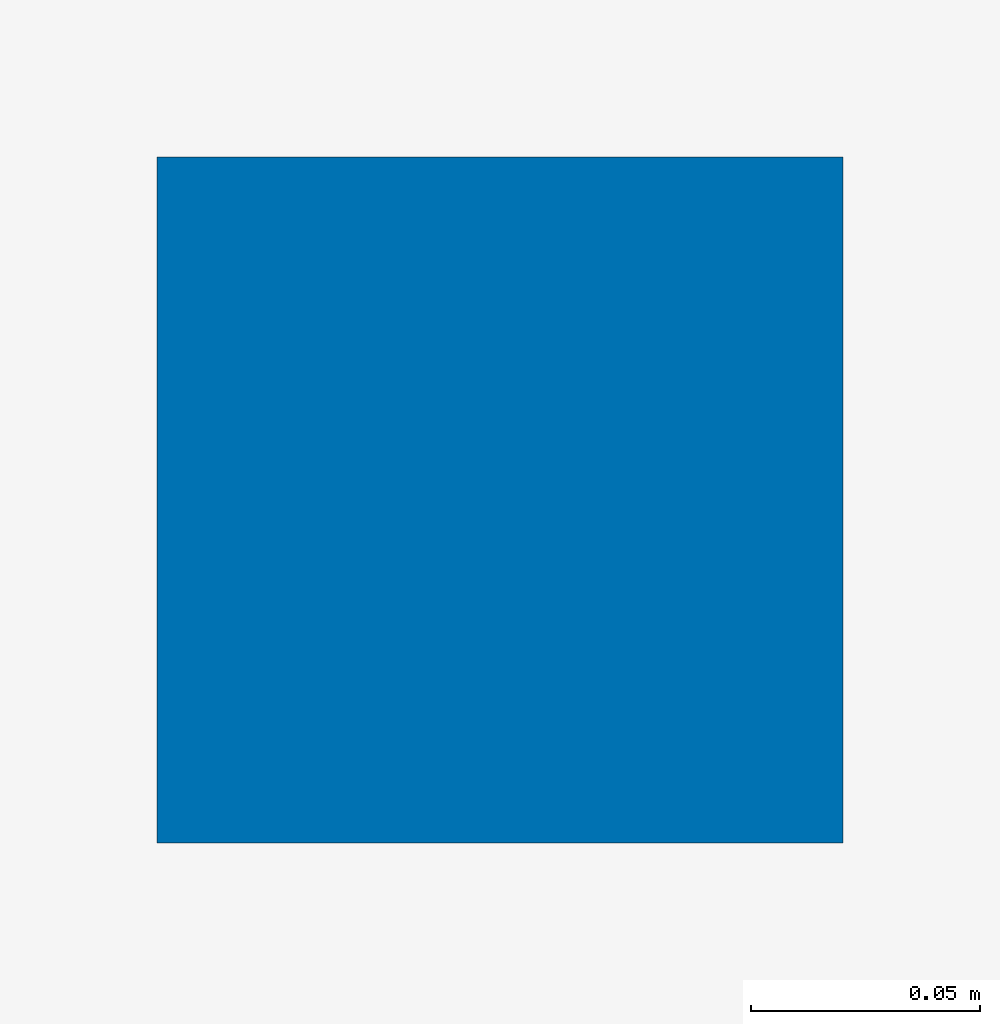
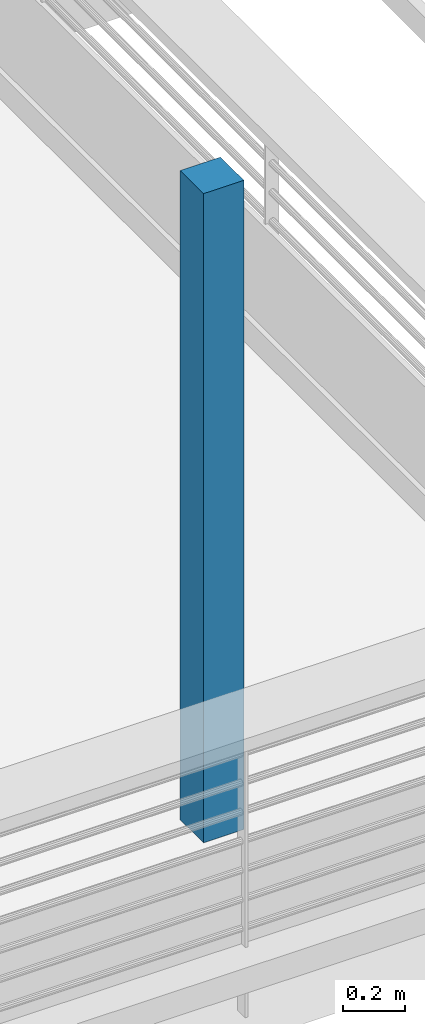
# One storey, part 10 of 171: 1 column.
"""IFC2X3 building model written with IfcOpenShell, lengths in millimetres."""

import ifcopenshell
import ifcopenshell.guid

model = None  # the IFC model being written
_history = None  # IfcOwnerHistory: only IFC2X3 demands one
_inside = {}  # id of a spatial element -> (the spatial element, [elements in it])
_under = {}  # id of a project, library or spatial element -> (it, [spatial elements below it])
_declared = {}  # id of a project -> (the project, [libraries it declares])
_typed = {}  # id of a type object -> (the type object, [elements of that type])
_made_of = {}  # id of a material, layer set ... -> (it, [elements and type objects made of it])


def new_model(schema):
    """Start an empty IFC model of exactly this schema.

    Asked for "IFC4X3", IfcOpenShell would pick the latest addendum, in which some entities
    have other attributes; the version numbers below select the first issue.
    IFC2X3 requires an IfcOwnerHistory on every rooted entity: one is made here for all.
    """
    global model, _history
    if schema == "IFC4X3":
        model = ifcopenshell.file(schema_version=(4, 3, 0, 0))
    else:
        model = ifcopenshell.file(schema=schema)
    _inside.clear()
    _under.clear()
    _declared.clear()
    _typed.clear()
    _made_of.clear()
    _history = None
    if model.schema == "IFC2X3":
        org = make("IfcOrganization", Name="unknown")
        user = make(
            "IfcPersonAndOrganization",
            ThePerson=make("IfcPerson", FamilyName="unknown"),
            TheOrganization=org,
        )
        app = make(
            "IfcApplication",
            ApplicationDeveloper=org,
            Version="unknown",
            ApplicationFullName="unknown",
            ApplicationIdentifier="unknown",
        )
        _history = make(
            "IfcOwnerHistory",
            OwningUser=user,
            OwningApplication=app,
            ChangeAction="ADDED",
            CreationDate=0,
        )
    return model


def make(cls, **values):
    """One entity of the class cls with the attributes given. An attribute that is None is left unset."""
    return model.create_entity(
        cls, **{name: value for name, value in values.items() if value is not None}
    )


def entity(cls, *values):
    """Any entity or typed value of the class cls, its attributes in the order of the schema. None: left unset."""
    e = model.create_entity(cls)
    for i, value in enumerate(values):
        if value is not None:
            e[i] = value
    return e


def rooted(cls, **values):
    """An entity with a GlobalId (a new one), such as an element, a storey or a relation."""
    return make(cls, GlobalId=ifcopenshell.guid.new(), OwnerHistory=_history, **values)


def si_unit(unit_type, name, prefix=None):
    """IfcSIUnit, for example si_unit("LENGTHUNIT", "METRE", prefix="MILLI")."""
    return make("IfcSIUnit", UnitType=unit_type, Prefix=prefix, Name=name)


def converted_unit(unit_type, name, factor, base, dimensions=None, offset=None):
    """IfcConversionBasedUnit, such as the inch: factor (a typed value) times the base unit."""
    return make(
        "IfcConversionBasedUnit"
        if offset is None
        else "IfcConversionBasedUnitWithOffset",
        ConversionOffset=offset,
        Dimensions=None
        if dimensions is None
        else entity("IfcDimensionalExponents", *dimensions),
        UnitType=unit_type,
        Name=name,
        ConversionFactor=make(
            "IfcMeasureWithUnit", ValueComponent=factor, UnitComponent=base
        ),
    )


def derived_unit(unit_type, elements):
    """IfcDerivedUnit: a product of units, each with its exponent."""
    return make(
        "IfcDerivedUnit",
        Elements=[
            make("IfcDerivedUnitElement", Unit=unit, Exponent=power)
            for unit, power in elements
        ],
        UnitType=unit_type,
    )


def money_unit(currency):
    """IfcMonetaryUnit."""
    return make("IfcMonetaryUnit", Currency=currency)


def assignment(units):
    """IfcUnitAssignment: the units of a project."""
    return None if units is None else make("IfcUnitAssignment", Units=units)


def point(xyz):
    """IfcCartesianPoint."""
    return None if xyz is None else make("IfcCartesianPoint", Coordinates=xyz)


def direction(xyz):
    """IfcDirection."""
    return None if xyz is None else make("IfcDirection", DirectionRatios=xyz)


def frame(location, z_axis=None, x_axis=None):
    """IfcAxis2Placement3D, a coordinate frame: its origin and axes. An axis left out is left unset."""
    return make(
        "IfcAxis2Placement3D",
        Location=point(location),
        Axis=direction(z_axis),
        RefDirection=direction(x_axis),
    )


def frame_2d(location, x_axis=None):
    """IfcAxis2Placement2D, a coordinate frame in the plane: its origin and x axis."""
    return make(
        "IfcAxis2Placement2D", Location=point(location), RefDirection=direction(x_axis)
    )


def origin_with_axes():
    """The frame at (0, 0, 0) with the z axis (0, 0, 1) and the x axis (1, 0, 0) written out."""
    return frame((0.0, 0.0, 0.0), z_axis=(0.0, 0.0, 1.0), x_axis=(1.0, 0.0, 0.0))


def origin_2d_with_axis():
    """The frame at (0, 0) in the plane with the x axis (1, 0) written out."""
    return frame_2d((0.0, 0.0), x_axis=(1.0, 0.0))


def place(relative_to, where):
    """IfcLocalPlacement: puts the frame where relative to a parent placement (None: the world)."""
    return make(
        "IfcLocalPlacement", PlacementRelTo=relative_to, RelativePlacement=where
    )


def context(
    kind, dimensions, precision=None, world=None, true_north=None, identifier=None
):
    """IfcGeometricRepresentationContext, for example the 3D "Model" context."""
    return make(
        "IfcGeometricRepresentationContext",
        ContextIdentifier=identifier,
        ContextType=kind,
        CoordinateSpaceDimension=dimensions,
        Precision=precision,
        WorldCoordinateSystem=world,
        TrueNorth=true_north,
    )


def subcontext(parent, identifier, kind, view, scale=None):
    """IfcGeometricRepresentationSubContext, for example "Body" below "Model"."""
    return make(
        "IfcGeometricRepresentationSubContext",
        ContextIdentifier=identifier,
        ContextType=kind,
        ParentContext=parent,
        TargetScale=scale,
        TargetView=view,
    )


def project(units=None, contexts=None):
    """IfcProject with its units and contexts."""
    return rooted(
        "IfcProject",
        Name="project",
        RepresentationContexts=contexts,
        UnitsInContext=assignment(units),
    )


def spatial(cls, under=None, at=None, **own):
    """A site, building, storey or space (cls), placed at a placement, below another one or the project."""
    s = rooted(cls, ObjectPlacement=at, **own)
    if under is not None:
        _under.setdefault(under.id(), (under, []))[1].append(s)
    return s


def profile(cls, at=None, kind="AREA", **sizes):
    """A parametric profile (cls). Its sizes go by their IFC names, for example OverallWidth=200.0."""
    return make(cls, ProfileType=kind, Position=at, **sizes)


def rectangle(**sizes):
    """IfcRectangleProfileDef."""
    return profile("IfcRectangleProfileDef", **sizes)


def extrude(swept, where, along, depth):
    """IfcExtrudedAreaSolid: the profile swept, set in the frame where, extruded along a direction by depth."""
    return make(
        "IfcExtrudedAreaSolid",
        SweptArea=swept,
        Position=where,
        ExtrudedDirection=direction(along),
        Depth=depth,
    )


def shape(context_of_items, identifier, shape_type, items):
    """IfcShapeRepresentation: the items that make up one representation, for example the "Body"."""
    return make(
        "IfcShapeRepresentation",
        ContextOfItems=context_of_items,
        RepresentationIdentifier=identifier,
        RepresentationType=shape_type,
        Items=items,
    )


def material(Name=None, Category=None):
    """IfcMaterial."""
    return make("IfcMaterial", Name=Name, Category=Category)


def made_of(thing, what):
    """Note that an element or type object is made of a material, layer set ...; save() writes the relation."""
    if what is not None:
        _made_of.setdefault(what.id(), (what, []))[1].append(thing)
    return thing


def type_object(cls, material=None, **own):
    """A type object (cls), such as IfcWallType, which elements share."""
    return made_of(rooted(cls, **own), material)


def element(
    cls,
    number,
    at=None,
    inside=None,
    cuts=None,
    type_object=None,
    material=None,
    context=None,
    identifier="Body",
    shape_type=None,
    held_by="IfcProductDefinitionShape",
    body=None,
    shapes=None,
    **own,
):
    """One element of the class cls, such as IfcWall. Its Tag is "e" and its number.

    at: its placement. inside: the storey or other place that contains it. cuts: it is an
    opening in that element (IfcRelVoidsElement). A single representation is given by context,
    identifier, shape_type and body (its items); several are given by shapes. held_by: the class
    of the entity that holds the representations. save() writes the other relations.
    """
    e = rooted(cls, Tag="e%d" % number, ObjectPlacement=at, **own)
    if body is not None:
        shapes = [shape(context, identifier, shape_type, body)]
    if shapes is not None:
        e.Representation = make(held_by, Representations=shapes)
    if inside is not None:
        _inside.setdefault(inside.id(), (inside, []))[1].append(e)
    if cuts is not None:
        rooted(
            "IfcRelVoidsElement", RelatingBuildingElement=cuts, RelatedOpeningElement=e
        )
    if type_object is not None:
        _typed.setdefault(type_object.id(), (type_object, []))[1].append(e)
    return made_of(e, material)


def aggregate(whole, parts):
    """IfcRelAggregates: a whole, such as a stair, and the parts it consists of."""
    return rooted("IfcRelAggregates", RelatingObject=whole, RelatedObjects=parts)


def save(model, path):
    """Write the relations noted so far, then the file.

    IfcRelAggregates (storeys below a building ...), IfcRelContainedInSpatialStructure (elements
    in a storey), IfcRelDefinesByType, IfcRelAssociatesMaterial and IfcRelDeclares: one each for
    every whole, place, type object, material and project.
    """
    for whole, parts in _under.values():
        aggregate(whole, parts)
    for where, things in _inside.values():
        rooted(
            "IfcRelContainedInSpatialStructure",
            RelatedElements=things,
            RelatingStructure=where,
        )
    for kind, things in _typed.values():
        rooted("IfcRelDefinesByType", RelatedObjects=things, RelatingType=kind)
    for what, things in _made_of.values():
        rooted("IfcRelAssociatesMaterial", RelatedObjects=things, RelatingMaterial=what)
    for by, libraries in _declared.values():
        rooted("IfcRelDeclares", RelatingContext=by, RelatedDefinitions=libraries)
    model.write(path)


model = new_model("IFC2X3")

# Units and contexts
model_context = context("Model", 3, precision=0.01, world=origin_with_axes(), true_north=direction((0.0, 1.0)))
body_context = subcontext(model_context, "Body", "Model", "MODEL_VIEW")
ifc_project = project(units=[si_unit("LENGTHUNIT", "METRE", prefix="MILLI"), si_unit("AREAUNIT", "SQUARE_METRE"), si_unit("VOLUMEUNIT", "CUBIC_METRE"), converted_unit("PLANEANGLEUNIT", "DEGREE", entity("IfcPlaneAngleMeasure", 0.0174532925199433), si_unit("PLANEANGLEUNIT", "RADIAN"), dimensions=[0, 0, 0, 0, 0, 0, 0]), money_unit("USD"), converted_unit("TIMEUNIT", "Year", entity("IfcTimeMeasure", 31557600.0), si_unit("TIMEUNIT", "SECOND"), dimensions=[0, 0, 1, 0, 0, 0, 0]), si_unit("MASSUNIT", "GRAM", prefix="KILO"), si_unit("THERMODYNAMICTEMPERATUREUNIT", "DEGREE_CELSIUS"), si_unit("LUMINOUSINTENSITYUNIT", "LUMEN"), si_unit("ENERGYUNIT", "JOULE", prefix="MEGA"), derived_unit("THERMALCONDUCTANCEUNIT", [(si_unit("POWERUNIT", "WATT"), 1), (si_unit("LENGTHUNIT", "METRE"), -1), (si_unit("THERMODYNAMICTEMPERATUREUNIT", "KELVIN"), -1)]), derived_unit("SPECIFICHEATCAPACITYUNIT", [(si_unit("ENERGYUNIT", "JOULE"), 1), (si_unit("MASSUNIT", "GRAM", prefix="KILO"), -1), (si_unit("THERMODYNAMICTEMPERATUREUNIT", "KELVIN"), -1)]), derived_unit("MASSDENSITYUNIT", [(si_unit("MASSUNIT", "GRAM", prefix="KILO"), 1), (si_unit("VOLUMEUNIT", "CUBIC_METRE"), -1)])], contexts=[model_context])

# Site, building, storey
site_placement = place(None, origin_with_axes())
site = spatial("IfcSite", under=ifc_project, at=site_placement, Name="Site", CompositionType="ELEMENT")
building_placement = place(site_placement, origin_with_axes())
building = spatial("IfcBuilding", under=site, at=building_placement, Name="Bâtiment", CompositionType="ELEMENT")
storey_placement = place(building_placement, frame((0.0, 0.0, 3000.0), z_axis=(0.0, 0.0, 1.0), x_axis=(1.0, 0.0, 0.0)))
storey = spatial("IfcBuildingStorey", under=building, at=storey_placement, Name="rdc", CompositionType="ELEMENT", Elevation=3000.0)

# Column
ifc_material = material(Name="Minimal space 288701002")
column_type = type_object("IfcColumnType", Name="Minimal space 288701002 150 x 150", PredefinedType="NOTDEFINED")
column_placement = place(storey_placement, frame((2232731.658098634, -660223.1031596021, 0.0), z_axis=(0.0, 0.0, 1.0), x_axis=(0.0, -1.0, 0.0)))
element("IfcColumn", 1, at=column_placement, inside=storey, type_object=column_type, material=ifc_material, Name="Pilier-018", context=body_context, shape_type="SweptSolid", body=[
    extrude(rectangle(XDim=150.0, YDim=150.0, at=origin_2d_with_axis()), origin_with_axes(), (0.0, 0.0, 1.0), 2550.0),
])

save(model, "model.ifc")
